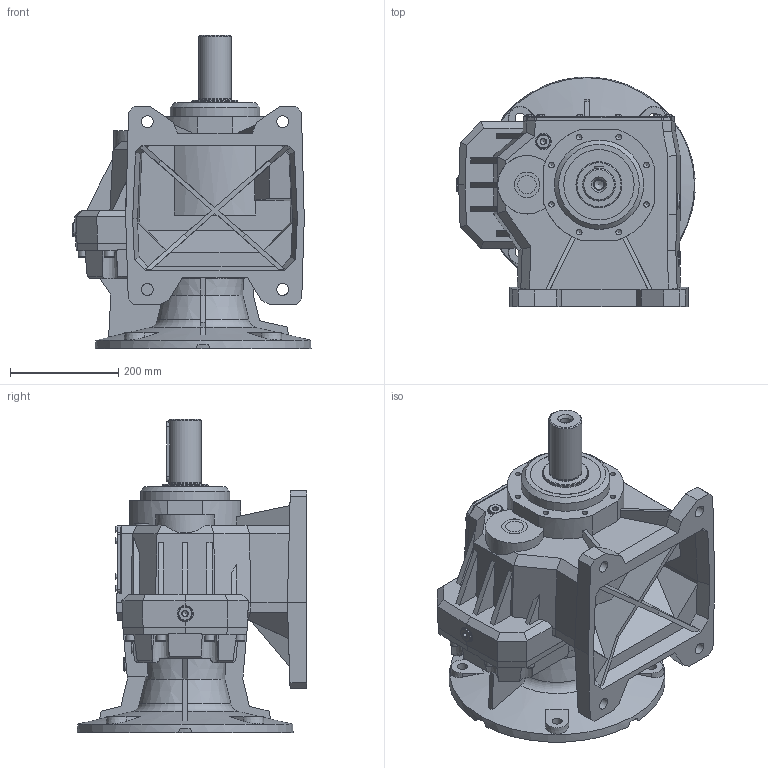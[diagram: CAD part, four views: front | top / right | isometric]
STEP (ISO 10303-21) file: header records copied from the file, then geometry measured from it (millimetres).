
FILE_DESCRIPTION( ( 'Unknown' ), '1' );
FILE_NAME( 'E:/services/configuratordownloads/customers/HYDROMEC/COASSIALI/download/A26EF5257FF39A211193C75592FBF/STEP/A26EF5257FF39A211193C75592FBF.3d.stp', 'Unknown', ( 'Unknown' ), ( 'Unknown' ), 'PSStep 10.1', 'Unknown', ' ' );
FILE_SCHEMA( ( 'AUTOMOTIVE_DESIGN { 1 0 10303 214 1 1 1 1 }' ) );
Length unit declared in the file: millimetre
Products named in the file (1): C1008802
Bounding box: 440.07 x 424.57 x 579.8 mm (x, y, z)
Volume: 27878754.6 mm3; surface area: 1416813.1 mm2
Topology: 1 solids, 42 shells, 1055 faces, 2596 edges, 1698 vertices
Faces by surface type: plane 666, cone 180, cylinder 168, torus 41
Full cylindrical faces by diameter (mm): 4.917 x12, 6 x12, 7 x12, 8.9 x12, 10.106 x18, 13 x10, 17.294 x1, 18 x10, 18.5 x4, 19.5 x6, 21 x1, 21.5 x6, 22 x4, 26 x6, 27 x6, 30 x6, 34 x1, 47 x1, 59.4 x1, 60 x1, 80 x1, 85 x1, 130 x1, 140 x1, 165 x1, 300 x1
Entity records: 37962 total; most frequent: CARTESIAN_POINT 6433, DIRECTION 4646, ORIENTED_EDGE 4394, EDGE_CURVE 2197, AXIS2_PLACEMENT_3D 1699, VERTEX_POINT 1578, EDGE_LOOP 1422, LINE 1248
